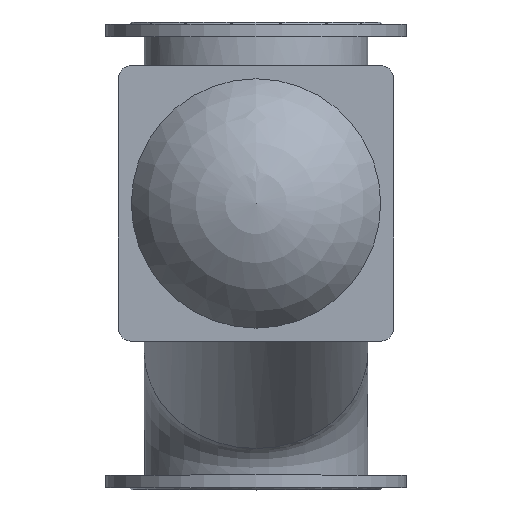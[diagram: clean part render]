
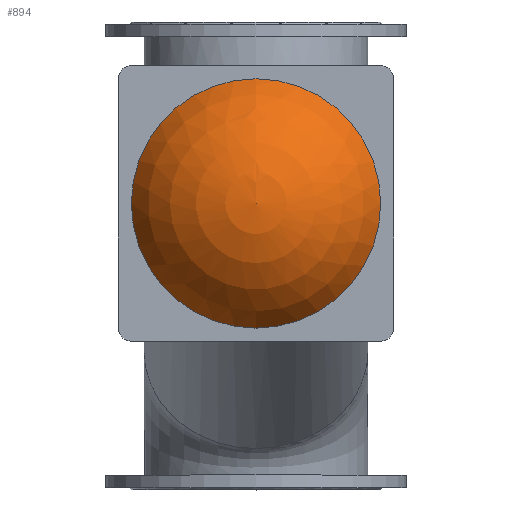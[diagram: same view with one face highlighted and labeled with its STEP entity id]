
A CAD part, top view. The second image highlights one B-rep face of the part: STEP entity #894.
In plain terms, the highlighted spherical face has radius 267 mm.
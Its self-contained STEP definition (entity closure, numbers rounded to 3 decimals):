
#894=ADVANCED_FACE('',(#1940),#1942,.T.);
#1940=FACE_OUTER_BOUND('',#1941,.T.);
#1941=EDGE_LOOP('',(#2561));
#1942=SPHERICAL_SURFACE('',#1943,267.);
#1943=AXIS2_PLACEMENT_3D('',#1944,#1945,#1946);
#1944=CARTESIAN_POINT('',(0.,100.,543.));
#1945=DIRECTION('',(0.,0.,-1.));
#1946=DIRECTION('',(0.,1.,0.));
#2561=ORIENTED_EDGE('',*,*,#2873,.T.);
#2873=EDGE_CURVE('',#3359,#3359,#3360,.F.);
#3359=VERTEX_POINT('',#5505);
#3360=CIRCLE('',#5506,240.);
#5505=CARTESIAN_POINT('',(0.,340.,660.));
#5506=AXIS2_PLACEMENT_3D('',#5507,#5508,#5509);
#5507=CARTESIAN_POINT('',(0.,100.,660.));
#5508=DIRECTION('',(0.,0.,-1.));
#5509=DIRECTION('',(0.,1.,0.));
